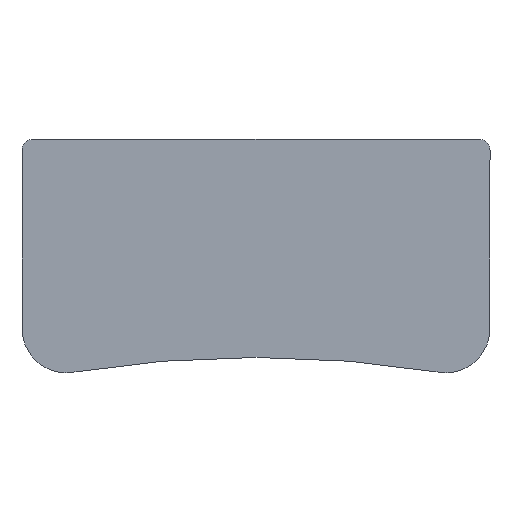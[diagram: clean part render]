
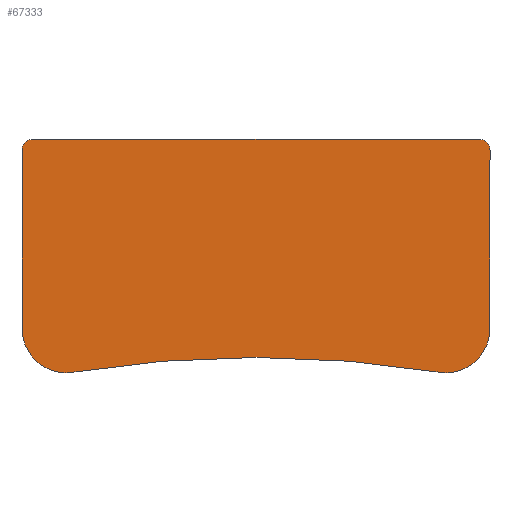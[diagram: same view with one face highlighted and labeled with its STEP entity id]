
A CAD part, front view. The second image highlights one B-rep face of the part: STEP entity #67333.
In plain terms, the highlighted planar face has unit normal (0, -1, 0) as drawn and (0, 0, -1) by its records, which use the part's own axes.
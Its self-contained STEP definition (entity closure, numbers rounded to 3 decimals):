
#67101=CARTESIAN_POINT('Axis2P3D Location',(488.91,-242.367,0.)) ;
#67105=CARTESIAN_POINT('Vertex',(492.819,-299.734,0.)) ;
#67107=CARTESIAN_POINT('Vertex',(492.84,-299.732,0.)) ;
#67119=CARTESIAN_POINT('Vertex',(479.524,-299.096,0.)) ;
#67122=CARTESIAN_POINT('Axis2P3D Location',(488.91,-242.367,0.)) ;
#67126=CARTESIAN_POINT('Vertex',(479.594,-299.107,0.)) ;
#67129=CARTESIAN_POINT('Axis2P3D Location',(488.91,-242.367,0.)) ;
#67150=CARTESIAN_POINT('Line Origine',(600.,42.5,0.)) ;
#67154=CARTESIAN_POINT('Vertex',(600.,-185.,0.)) ;
#67156=CARTESIAN_POINT('Vertex',(600.,270.,0.)) ;
#67185=CARTESIAN_POINT('Vertex',(-570.,300.,0.)) ;
#67192=CARTESIAN_POINT('Vertex',(570.,300.,0.)) ;
#67195=CARTESIAN_POINT('Line Origine',(0.,300.,0.)) ;
#67216=CARTESIAN_POINT('Vertex',(-600.,270.,0.)) ;
#67219=CARTESIAN_POINT('Line Origine',(-600.,42.5,0.)) ;
#67223=CARTESIAN_POINT('Vertex',(-600.,-185.,0.)) ;
#67243=CARTESIAN_POINT('Axis2P3D Location',(-488.91,-242.367,0.)) ;
#67247=CARTESIAN_POINT('Vertex',(-479.594,-299.107,0.)) ;
#67249=CARTESIAN_POINT('Vertex',(-492.819,-299.734,0.)) ;
#67252=CARTESIAN_POINT('Axis2P3D Location',(-488.91,-242.367,0.)) ;
#67256=CARTESIAN_POINT('Vertex',(-479.524,-299.096,0.)) ;
#67268=CARTESIAN_POINT('Vertex',(-492.84,-299.732,0.)) ;
#67271=CARTESIAN_POINT('Axis2P3D Location',(-488.91,-242.367,0.)) ;
#67287=CARTESIAN_POINT('Axis2P3D Location',(0.,0.,0.)) ;
#67292=CARTESIAN_POINT('Axis2P3D Location',(0.,-3220.313,0.)) ;
#67297=CARTESIAN_POINT('Axis2P3D Location',(-485.,-185.,0.)) ;
#67302=CARTESIAN_POINT('Axis2P3D Location',(-570.,270.,0.)) ;
#67307=CARTESIAN_POINT('Axis2P3D Location',(570.,270.,0.)) ;
#67312=CARTESIAN_POINT('Axis2P3D Location',(485.,-185.,0.)) ;
#67102=DIRECTION('Axis2P3D Direction',(0.,0.,-1.)) ;
#67123=DIRECTION('Axis2P3D Direction',(0.,0.,-1.)) ;
#67130=DIRECTION('Axis2P3D Direction',(0.,0.,-1.)) ;
#67151=DIRECTION('Vector Direction',(0.,1.,0.)) ;
#67196=DIRECTION('Vector Direction',(1.,0.,0.)) ;
#67220=DIRECTION('Vector Direction',(0.,-1.,0.)) ;
#67244=DIRECTION('Axis2P3D Direction',(0.,0.,1.)) ;
#67253=DIRECTION('Axis2P3D Direction',(0.,0.,1.)) ;
#67272=DIRECTION('Axis2P3D Direction',(0.,0.,1.)) ;
#67288=DIRECTION('Axis2P3D Direction',(0.,0.,1.)) ;
#67289=DIRECTION('Axis2P3D XDirection',(1.,0.,0.)) ;
#67293=DIRECTION('Axis2P3D Direction',(0.,0.,1.)) ;
#67298=DIRECTION('Axis2P3D Direction',(0.,0.,1.)) ;
#67303=DIRECTION('Axis2P3D Direction',(0.,0.,1.)) ;
#67308=DIRECTION('Axis2P3D Direction',(0.,0.,1.)) ;
#67313=DIRECTION('Axis2P3D Direction',(0.,0.,1.)) ;
#67103=AXIS2_PLACEMENT_3D('Circle Axis2P3D',#67101,#67102,$) ;
#67124=AXIS2_PLACEMENT_3D('Circle Axis2P3D',#67122,#67123,$) ;
#67131=AXIS2_PLACEMENT_3D('Circle Axis2P3D',#67129,#67130,$) ;
#67245=AXIS2_PLACEMENT_3D('Circle Axis2P3D',#67243,#67244,$) ;
#67254=AXIS2_PLACEMENT_3D('Circle Axis2P3D',#67252,#67253,$) ;
#67273=AXIS2_PLACEMENT_3D('Circle Axis2P3D',#67271,#67272,$) ;
#67290=AXIS2_PLACEMENT_3D('Plane Axis2P3D',#67287,#67288,#67289) ;
#67294=AXIS2_PLACEMENT_3D('Circle Axis2P3D',#67292,#67293,$) ;
#67299=AXIS2_PLACEMENT_3D('Circle Axis2P3D',#67297,#67298,$) ;
#67304=AXIS2_PLACEMENT_3D('Circle Axis2P3D',#67302,#67303,$) ;
#67309=AXIS2_PLACEMENT_3D('Circle Axis2P3D',#67307,#67308,$) ;
#67314=AXIS2_PLACEMENT_3D('Circle Axis2P3D',#67312,#67313,$) ;
#67318=ORIENTED_EDGE('',*,*,#67133,.F.) ;
#67319=ORIENTED_EDGE('',*,*,#67128,.T.) ;
#67320=ORIENTED_EDGE('',*,*,#67296,.T.) ;
#67321=ORIENTED_EDGE('',*,*,#67258,.T.) ;
#67322=ORIENTED_EDGE('',*,*,#67251,.T.) ;
#67323=ORIENTED_EDGE('',*,*,#67275,.F.) ;
#67324=ORIENTED_EDGE('',*,*,#67301,.F.) ;
#67325=ORIENTED_EDGE('',*,*,#67225,.F.) ;
#67326=ORIENTED_EDGE('',*,*,#67306,.F.) ;
#67327=ORIENTED_EDGE('',*,*,#67199,.F.) ;
#67328=ORIENTED_EDGE('',*,*,#67311,.F.) ;
#67329=ORIENTED_EDGE('',*,*,#67158,.F.) ;
#67330=ORIENTED_EDGE('',*,*,#67316,.F.) ;
#67331=ORIENTED_EDGE('',*,*,#67109,.F.) ;
#67152=VECTOR('Line Direction',#67151,1.) ;
#67197=VECTOR('Line Direction',#67196,1.) ;
#67221=VECTOR('Line Direction',#67220,1.) ;
#67333=ADVANCED_FACE('\X2\96F64EF651E04F554F53\X0\',(#67332),#67291,.F.) ;
#67104=CIRCLE('generated circle',#67103,57.5) ;
#67125=CIRCLE('generated circle',#67124,57.5) ;
#67132=CIRCLE('generated circle',#67131,57.5) ;
#67246=CIRCLE('generated circle',#67245,57.5) ;
#67255=CIRCLE('generated circle',#67254,57.5) ;
#67274=CIRCLE('generated circle',#67273,57.5) ;
#67295=CIRCLE('generated circle',#67294,2960.313) ;
#67300=CIRCLE('generated circle',#67299,115.) ;
#67305=CIRCLE('generated circle',#67304,30.) ;
#67310=CIRCLE('generated circle',#67309,30.) ;
#67315=CIRCLE('generated circle',#67314,115.) ;
#67109=EDGE_CURVE('',#67106,#67108,#67104,.F.) ;
#67128=EDGE_CURVE('',#67127,#67120,#67125,.T.) ;
#67133=EDGE_CURVE('',#67127,#67106,#67132,.F.) ;
#67158=EDGE_CURVE('',#67155,#67157,#67153,.T.) ;
#67199=EDGE_CURVE('',#67193,#67186,#67198,.F.) ;
#67225=EDGE_CURVE('',#67217,#67224,#67222,.T.) ;
#67251=EDGE_CURVE('',#67248,#67250,#67246,.F.) ;
#67258=EDGE_CURVE('',#67257,#67248,#67255,.F.) ;
#67275=EDGE_CURVE('',#67269,#67250,#67274,.T.) ;
#67296=EDGE_CURVE('',#67120,#67257,#67295,.T.) ;
#67301=EDGE_CURVE('',#67224,#67269,#67300,.T.) ;
#67306=EDGE_CURVE('',#67186,#67217,#67305,.T.) ;
#67311=EDGE_CURVE('',#67157,#67193,#67310,.T.) ;
#67316=EDGE_CURVE('',#67108,#67155,#67315,.T.) ;
#67317=EDGE_LOOP('',(#67318,#67319,#67320,#67321,#67322,#67323,#67324,#67325,#67326,#67327,#67328,#67329,#67330,#67331)) ;
#67332=FACE_OUTER_BOUND('',#67317,.T.) ;
#67153=LINE('Line',#67150,#67152) ;
#67198=LINE('Line',#67195,#67197) ;
#67222=LINE('Line',#67219,#67221) ;
#67291=PLANE('',#67290) ;
#67106=VERTEX_POINT('',#67105) ;
#67108=VERTEX_POINT('',#67107) ;
#67120=VERTEX_POINT('',#67119) ;
#67127=VERTEX_POINT('',#67126) ;
#67155=VERTEX_POINT('',#67154) ;
#67157=VERTEX_POINT('',#67156) ;
#67186=VERTEX_POINT('',#67185) ;
#67193=VERTEX_POINT('',#67192) ;
#67217=VERTEX_POINT('',#67216) ;
#67224=VERTEX_POINT('',#67223) ;
#67248=VERTEX_POINT('',#67247) ;
#67250=VERTEX_POINT('',#67249) ;
#67257=VERTEX_POINT('',#67256) ;
#67269=VERTEX_POINT('',#67268) ;
